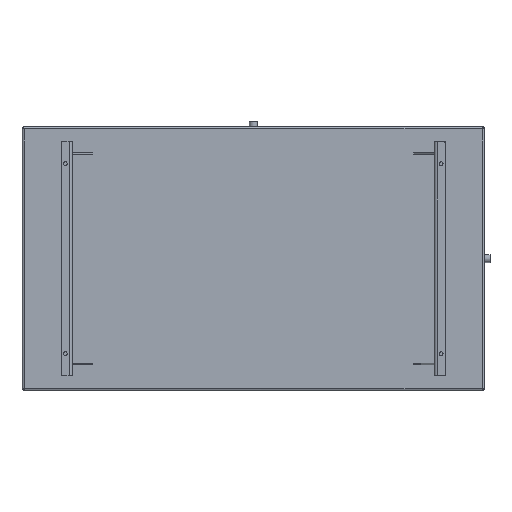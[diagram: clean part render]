
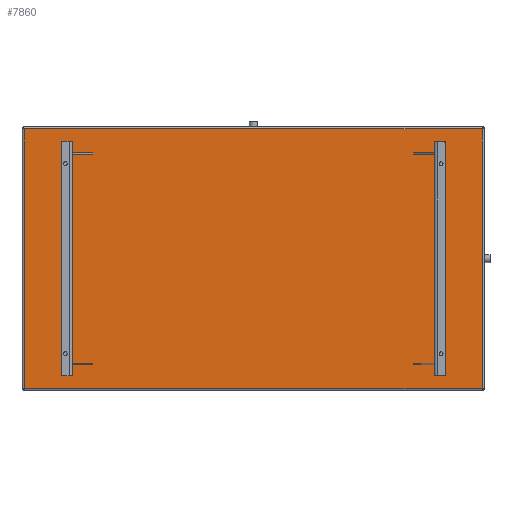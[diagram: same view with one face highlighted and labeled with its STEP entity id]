
A CAD part, front view. The second image highlights one B-rep face of the part: STEP entity #7860.
In plain terms, the highlighted planar face has unit normal (0, -1, 0).
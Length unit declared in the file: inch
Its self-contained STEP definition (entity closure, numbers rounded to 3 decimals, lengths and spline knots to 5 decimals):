
#427 = VECTOR ( 'NONE', #509, 39.37008 ) ;
#509 = DIRECTION ( 'NONE',  ( 0., 0., 1. ) ) ;
#635 = DIRECTION ( 'NONE',  ( 1., 0., 0. ) ) ;
#696 = CARTESIAN_POINT ( 'NONE',  ( 26.51625, 2.4134, -18.37249 ) ) ;
#768 = CARTESIAN_POINT ( 'NONE',  ( -56.83979, 2.4134, -18.15784 ) ) ;
#1208 = LINE ( 'NONE', #768, #6898 ) ;
#1351 = CARTESIAN_POINT ( 'NONE',  ( 26.51625, 2.4134, -18.15784 ) ) ;
#1518 = CARTESIAN_POINT ( 'NONE',  ( -56.62515, 2.4134, -18.15784 ) ) ;
#2683 = EDGE_LOOP ( 'NONE', ( #3379, #3210, #3117, #2992 ) ) ;
#2785 = EDGE_CURVE ( 'NONE', #3490, #8430, #1208, .T. ) ;
#2791 = EDGE_CURVE ( 'NONE', #8430, #4497, #7083, .T. ) ;
#2843 = DIRECTION ( 'NONE',  ( 0., 0., -1. ) ) ;
#2855 = CARTESIAN_POINT ( 'NONE',  ( -56.62515, 2.4134, 29.1982 ) ) ;
#2992 = ORIENTED_EDGE ( 'NONE', *, *, #4135, .T. ) ;
#3117 = ORIENTED_EDGE ( 'NONE', *, *, #4352, .T. ) ;
#3210 = ORIENTED_EDGE ( 'NONE', *, *, #2791, .T. ) ;
#3379 = ORIENTED_EDGE ( 'NONE', *, *, #2785, .T. ) ;
#3490 = VERTEX_POINT ( 'NONE', #1518 ) ;
#3959 = VERTEX_POINT ( 'NONE', #7514 ) ;
#4135 = EDGE_CURVE ( 'NONE', #3959, #3490, #4152, .T. ) ;
#4142 = VECTOR ( 'NONE', #7439, 39.37008 ) ;
#4152 = LINE ( 'NONE', #2855, #7859 ) ;
#4336 = DIRECTION ( 'NONE',  ( 0., 0., -1. ) ) ;
#4352 = EDGE_CURVE ( 'NONE', #4497, #3959, #9568, .T. ) ;
#4355 = DIRECTION ( 'NONE',  ( 0., -1., 0. ) ) ;
#4359 = CARTESIAN_POINT ( 'NONE',  ( 26.94555, 2.4134, -18.58714 ) ) ;
#4387 = PLANE ( 'NONE',  #7796 ) ;
#4497 = VERTEX_POINT ( 'NONE', #6200 ) ;
#5287 = FACE_OUTER_BOUND ( 'NONE', #2683, .T. ) ;
#6200 = CARTESIAN_POINT ( 'NONE',  ( 26.51625, 2.4134, 28.98356 ) ) ;
#6898 = VECTOR ( 'NONE', #635, 39.37008 ) ;
#7083 = LINE ( 'NONE', #696, #427 ) ;
#7439 = DIRECTION ( 'NONE',  ( -1., 0., 0. ) ) ;
#7456 = CARTESIAN_POINT ( 'NONE',  ( 26.7309, 2.4134, 28.98356 ) ) ;
#7514 = CARTESIAN_POINT ( 'NONE',  ( -56.62515, 2.4134, 28.98356 ) ) ;
#7796 = AXIS2_PLACEMENT_3D ( 'NONE', #4359, #4355, #4336 ) ;
#7859 = VECTOR ( 'NONE', #2843, 39.37008 ) ;
#7860 = ADVANCED_FACE ( 'NONE', ( #5287 ), #4387, .T. ) ;
#8430 = VERTEX_POINT ( 'NONE', #1351 ) ;
#9568 = LINE ( 'NONE', #7456, #4142 ) ;
